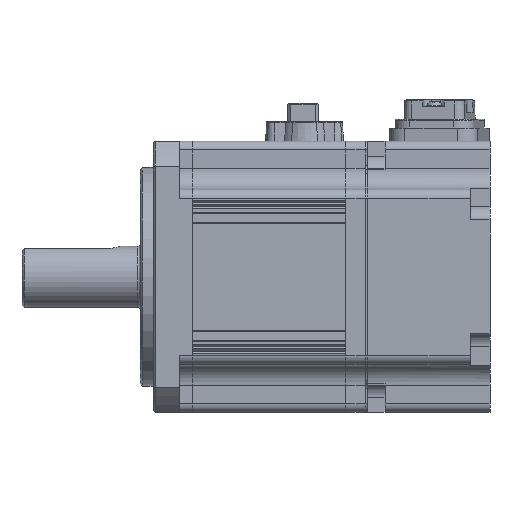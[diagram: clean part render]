
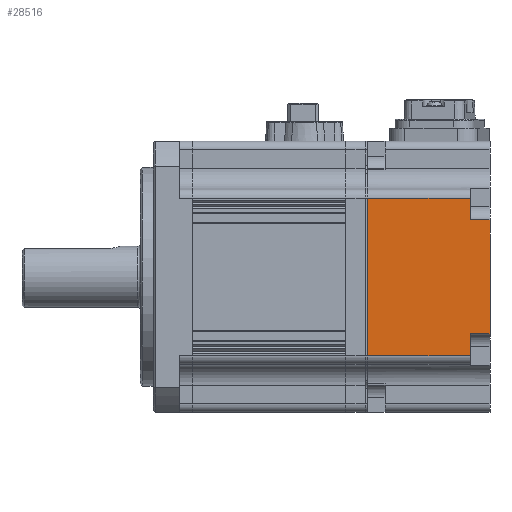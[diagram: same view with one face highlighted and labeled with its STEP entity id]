
A CAD part, left-side view. The second image highlights one B-rep face of the part: STEP entity #28516.
In plain terms, the highlighted planar face has unit normal (-1, 0, 0).
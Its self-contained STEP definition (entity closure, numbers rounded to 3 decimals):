
#2179=FACE_OUTER_BOUND('',#3803,.T.);
#3803=EDGE_LOOP('',(#22474,#22475,#22476,#22477,#22478,#22479,#22480,#22481));
#6011=LINE('',#49252,#9015);
#6045=LINE('',#49353,#9049);
#6066=LINE('',#49406,#9070);
#6067=LINE('',#49408,#9071);
#6068=LINE('',#49410,#9072);
#6069=LINE('',#49411,#9073);
#6070=LINE('',#49413,#9074);
#6071=LINE('',#49414,#9075);
#9015=VECTOR('',#34547,36.);
#9049=VECTOR('',#34631,23.5);
#9070=VECTOR('',#34672,4.5);
#9071=VECTOR('',#34673,26.);
#9072=VECTOR('',#34674,4.5);
#9073=VECTOR('',#34675,5.);
#9074=VECTOR('',#34676,23.5);
#9075=VECTOR('',#34677,5.);
#12697=VERTEX_POINT('',#49249);
#12698=VERTEX_POINT('',#49251);
#12740=VERTEX_POINT('',#49352);
#12761=VERTEX_POINT('',#49404);
#12762=VERTEX_POINT('',#49405);
#12763=VERTEX_POINT('',#49407);
#12764=VERTEX_POINT('',#49409);
#12765=VERTEX_POINT('',#49412);
#16273=EDGE_CURVE('',#12697,#12698,#6011,.T.);
#16323=EDGE_CURVE('',#12740,#12698,#6045,.T.);
#16349=EDGE_CURVE('',#12761,#12762,#6066,.T.);
#16350=EDGE_CURVE('',#12762,#12763,#6067,.T.);
#16351=EDGE_CURVE('',#12764,#12763,#6068,.T.);
#16352=EDGE_CURVE('',#12740,#12764,#6069,.T.);
#16353=EDGE_CURVE('',#12765,#12697,#6070,.T.);
#16354=EDGE_CURVE('',#12761,#12765,#6071,.T.);
#22474=ORIENTED_EDGE('',*,*,#16349,.T.);
#22475=ORIENTED_EDGE('',*,*,#16350,.T.);
#22476=ORIENTED_EDGE('',*,*,#16351,.F.);
#22477=ORIENTED_EDGE('',*,*,#16352,.F.);
#22478=ORIENTED_EDGE('',*,*,#16323,.T.);
#22479=ORIENTED_EDGE('',*,*,#16273,.F.);
#22480=ORIENTED_EDGE('',*,*,#16353,.F.);
#22481=ORIENTED_EDGE('',*,*,#16354,.F.);
#27255=PLANE('',#30253);
#28516=ADVANCED_FACE('',(#2179),#27255,.T.);
#30253=AXIS2_PLACEMENT_3D('',#49403,#34670,#34671);
#34547=DIRECTION('',(0.,0.,1.));
#34631=DIRECTION('',(0.,1.,0.));
#34670=DIRECTION('center_axis',(-1.,0.,0.));
#34671=DIRECTION('ref_axis',(0.,0.,1.));
#34672=DIRECTION('',(0.,-1.,0.));
#34673=DIRECTION('',(0.,0.,1.));
#34674=DIRECTION('',(0.,-1.,0.));
#34675=DIRECTION('',(0.,0.,-1.));
#34676=DIRECTION('',(0.,1.,0.));
#34677=DIRECTION('',(0.,0.,-1.));
#49249=CARTESIAN_POINT('',(-31.,-49.,-18.));
#49251=CARTESIAN_POINT('',(-31.,-49.,18.));
#49252=CARTESIAN_POINT('',(-31.,-49.,18.));
#49352=CARTESIAN_POINT('',(-31.,-72.5,18.));
#49353=CARTESIAN_POINT('',(-31.,-77.,18.));
#49403=CARTESIAN_POINT('Origin',(-31.,-77.,18.));
#49404=CARTESIAN_POINT('',(-31.,-72.5,-13.));
#49405=CARTESIAN_POINT('',(-31.,-77.,-13.));
#49406=CARTESIAN_POINT('',(-31.,-72.5,-13.));
#49407=CARTESIAN_POINT('',(-31.,-77.,13.));
#49408=CARTESIAN_POINT('',(-31.,-77.,18.));
#49409=CARTESIAN_POINT('',(-31.,-72.5,13.));
#49410=CARTESIAN_POINT('',(-31.,-72.5,13.));
#49411=CARTESIAN_POINT('',(-31.,-72.5,20.5));
#49412=CARTESIAN_POINT('',(-31.,-72.5,-18.));
#49413=CARTESIAN_POINT('',(-31.,-77.,-18.));
#49414=CARTESIAN_POINT('',(-31.,-72.5,-20.5));
